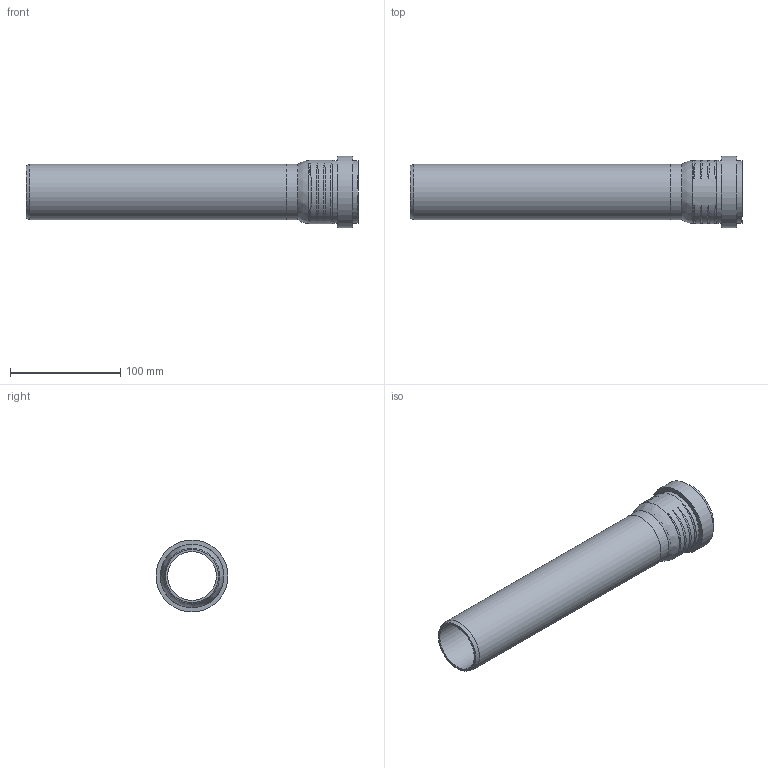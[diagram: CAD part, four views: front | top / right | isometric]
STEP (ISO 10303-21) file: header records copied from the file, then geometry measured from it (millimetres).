
FILE_DESCRIPTION(/* description */ (''),/* implementation_level */ '2;1');
FILE_NAME(/* name */ 'H:\Geberit-Teile\Export\PP_Rohr\stp\393201.stp',/* time_stamp */ '2017-02-13T16:05:00+01:00',/* author */ ('seihe2'),/* organization */ (''),/* preprocessor_version */ 'ST-DEVELOPER v15.2',/* originating_system */ 'Autodesk Inventor 2014',/* authorisation */ '');
FILE_SCHEMA (('AUTOMOTIVE_DESIGN { 1 0 10303 214 3 1 1 }'));
Length unit declared in the file: millimetre
Products named in the file (1): 393201
Bounding box: 300.8 x 65.1 x 65.1 mm (x, y, z)
Volume: 144978.7 mm3; surface area: 100889.6 mm2
Topology: 2 solids, 2 shells, 38 faces, 82 edges, 57 vertices
Faces by surface type: torus 16, cylinder 10, plane 8, cone 2, bspline 2
Full cylindrical faces by diameter (mm): 44.15 x2, 50.15 x2, 50.8 x1, 52 x1, 56.3 x1, 57.5 x1, 59.9 x1, 65.1 x1
Entity records: 2101 total; most frequent: CARTESIAN_POINT 1309, DIRECTION 132, ORIENTED_EDGE 130, EDGE_LOOP 68, AXIS2_PLACEMENT_3D 66, EDGE_CURVE 65, VERTEX_POINT 57, STYLED_ITEM 40
